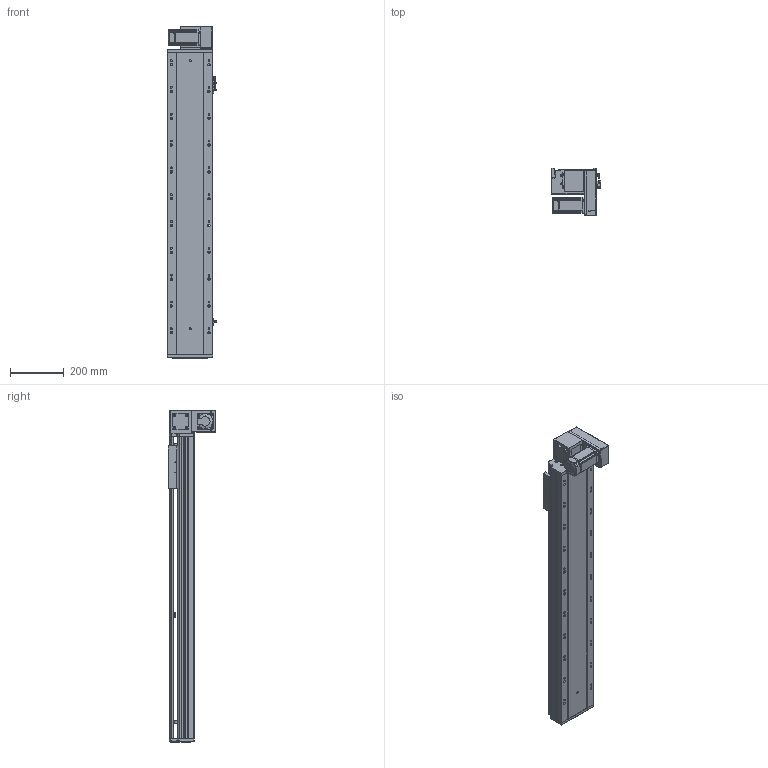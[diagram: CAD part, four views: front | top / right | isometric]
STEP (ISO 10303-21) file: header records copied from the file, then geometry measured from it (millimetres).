
FILE_DESCRIPTION (( 'STEP AP203' ), '1' );
FILE_NAME ('RY170-T-300-DR-P400W.SLDASM_850.step', '2021-03-01T08:23:20', ( '盈信电脑' ), ( '东莞市道滘镇水果街19号' ), 'SwSTEP 2.0', 'SolidWorks 2012', '' );
FILE_SCHEMA (( 'CONFIG_CONTROL_DESIGN' ));
Length unit declared in the file: millimetre
Products named in the file (19): 15; RY170-T-300-DR-P400W.SLDASM_850; RY170-T-呴雄粣揤踡啣; RY170-T蹟翐M4; 滅袉蝶18-10; RY170綴裔啣; 覜茼ん672; RY170外置感应片(200共用）; RY170肮祭謫ヶ裔啣; RY170-T-300肮祭謫倰第裔啣-DR_850; RY170-T-300肮祭謫倰第菁釱-DR_850; RY170肮祭湍臏賑輸; RY170-T肮祭謫裔啣; RY170-T肮祭湍揤踡輸1; RY120-T主同步轮轴承压盖; RY170-T肮祭湍揤踡輸2; RY170同步轮电机安装板(400W); RY170翋肮祭謫釱; RY170肮祭謫萇儂欶
Assembly tree (23 placements, depth 2):
  RY170-T-300-DR-P400W.SLDASM_850
    RY170-T-300肮祭謫倰第菁釱-DR_850
    RY170肮祭湍臏賑輸
    RY170-T-300肮祭謫倰第裔啣-DR_850
    RY170綴裔啣
    覜茼ん672  x3
    RY170外置感应片(200共用）
    RY170肮祭謫ヶ裔啣
    RY170翋肮祭謫釱
    RY170同步轮电机安装板(400W)
    RY170肮祭謫萇儂欶
    RY170-T肮祭湍揤踡輸1  x2
    RY170-T肮祭湍揤踡輸2  x2
    RY120-T主同步轮轴承压盖
    RY170-T肮祭謫裔啣
    RY170-T蹟翐M4
    滅袉蝶18-10  x2
    RY170-T-呴雄粣揤踡啣
    15
Bounding box: 183.7 x 178 x 1238 mm (x, y, z)
Volume: 6269899.5 mm3; surface area: 2127062.9 mm2
Topology: 23 solids, 23 shells, 2842 faces, 7990 edges, 5145 vertices
Faces by surface type: cylinder 1312, plane 1272, cone 228, bspline 30
Entity records: 86829 total; most frequent: CARTESIAN_POINT 20171, ORIENTED_EDGE 13704, DIRECTION 13244, EDGE_CURVE 6852, AXIS2_PLACEMENT_3D 4668, VERTEX_POINT 4501, VECTOR 3908, LINE 3908
